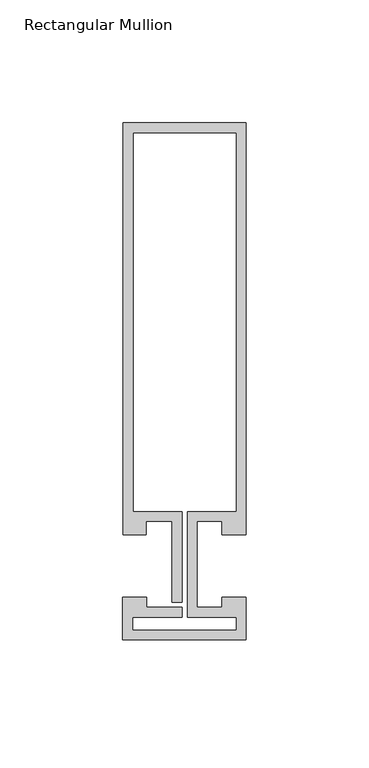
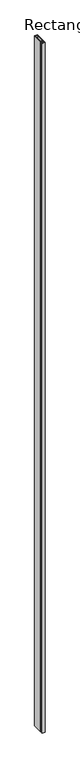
"""IFC4 building model written with IfcOpenShell, lengths in millimetres: member geometry, Rectangular Mullion : Reynaers_CW-50_Transom-Transom_167.5mm_Facecap-02B."""

from ifc_helpers import new_model, si_unit, frame, origin, place, context, project, spatial, polyline, outline, extrude, source, transform, mapped, element, save


def rectangular_mullion_d79525b9(model_context):
    return source(origin(), model_context, "Body", "SweptSolid", [
        extrude(outline(polyline([(25.1995941, -12.7331291), (25.1995941, -30.0331291), (-24.994845, -30.0331291), (-24.994845, -12.7331291), (-15.2996495, -12.7331291), (-15.2996495, -16.7331291), (-0.9004059, -16.7331291), (-0.9004059, -20.7331291), (-20.994845, -20.7331291), (-20.994845, -26.0331291), (21.1995941, -26.0331291), (21.1995941, -20.7331291), (1.2995941, -20.7331291), (1.2995941, 22.1331291), (21.1995941, 22.1331291), (21.1995941, 176.2331291), (-20.8004059, 176.2331291), (-20.8004059, 22.1331291), (-0.9004059, 22.1331291), (-0.9004059, -14.7331291), (-4.9004059, -14.7331291), (-4.9004059, 18.1331291), (-15.499, 18.1331291), (-15.499, 12.7331291), (-24.8004059, 12.7331291), (-24.8004059, 180.2331291), (25.1995941, 180.2331291), (25.1995941, 12.7331291), (15.499, 12.7331291), (15.499, 18.1331291), (5.2995941, 18.1331291), (5.2995941, -16.7331291), (15.2996495, -16.7331291), (15.2996495, -12.7331291), (25.1995941, -12.7331291)])), frame((0.0, 0.0, -12000.0), z_axis=(0.0, 0.0, 1.0), x_axis=(1.0, 0.0, 0.0)), (0.0, 0.0, 1.0), 12000.0),
    ])


if __name__ == "__main__":
    model = new_model("IFC4")
    model_context = context("Model", 3, world=origin())
    ifc_project = project(units=[si_unit("LENGTHUNIT", "METRE", prefix="MILLI")], contexts=[model_context])
    site = spatial("IfcSite", under=ifc_project)
    building = spatial("IfcBuilding", under=site)
    placement = place(None, origin())
    rectangular_mullion_shape = rectangular_mullion_d79525b9(model_context)
    element("IfcMember", 1, ObjectType="Rectangular Mullion : Reynaers_CW-50_Transom-Transom_167.5mm_Facecap-02B", at=placement, inside=building, context=model_context, shape_type="MappedRepresentation", body=[
        mapped(rectangular_mullion_shape, transform((0.0, 0.0, 0.0), x_axis=(1.0, 0.0, 0.0), y_axis=(0.0, 1.0, 0.0), z_axis=(0.0, 0.0, 1.0))),
    ])
    save(model, "model.ifc")
